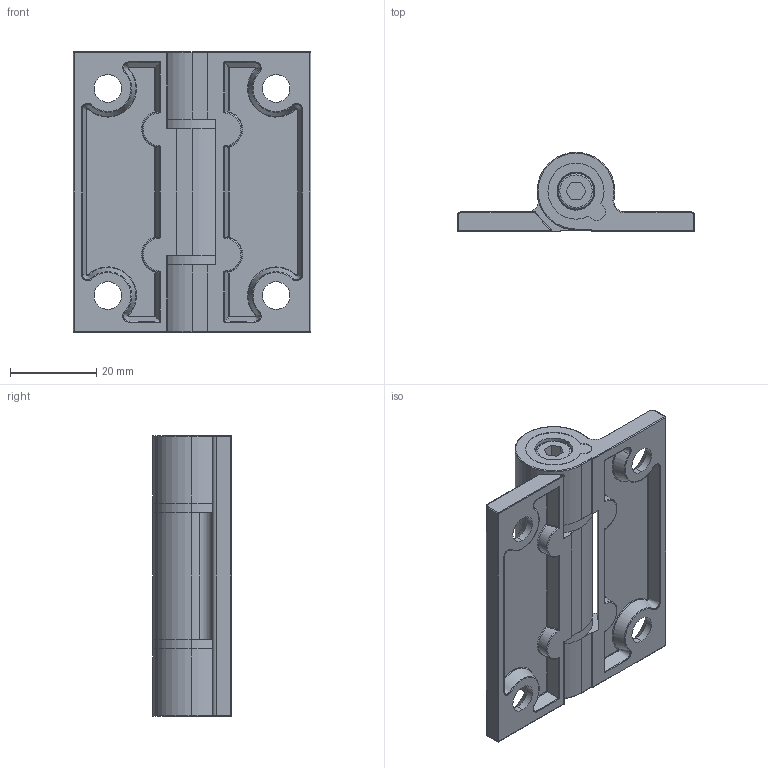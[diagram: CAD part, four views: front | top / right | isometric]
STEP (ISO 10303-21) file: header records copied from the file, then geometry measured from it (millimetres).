
FILE_DESCRIPTION (( 'STEP AP214' ), '1' );
FILE_NAME ('SK2-311.STEP', '2020-03-26T02:45:02', ( 'admin' ), ( 'Microsoft' ), 'SwSTEP 2.0', 'SolidWorks 2018', '' );
FILE_SCHEMA (( 'AUTOMOTIVE_DESIGN' ));
Length unit declared in the file: millimetre
Products named in the file (7): 2-311-F5; M5囀鞠褒鼠備酗僅25; 2-311-F1; 2-311-F3; 2-311-F4; 2-311-F2; SK2-311
Assembly tree (7 placements, depth 2):
  SK2-311
    2-311-F2
    2-311-F4
    2-311-F3
    2-311-F1
    M5囀鞠褒鼠備酗僅25
    2-311-F5  x2
Bounding box: 55 x 18.3 x 65 mm (x, y, z)
Volume: 22307 mm3; surface area: 21739.4 mm2
Topology: 7 solids, 7 shells, 544 faces, 1445 edges, 901 vertices
Faces by surface type: cylinder 319, plane 75, bspline 74, torus 36, cone 20, sphere 20
Entity records: 27055 total; most frequent: CARTESIAN_POINT 14356, ORIENTED_EDGE 2826, DIRECTION 2401, EDGE_CURVE 1413, AXIS2_PLACEMENT_3D 958, VERTEX_POINT 893, EDGE_LOOP 562, ADVANCED_FACE 538
